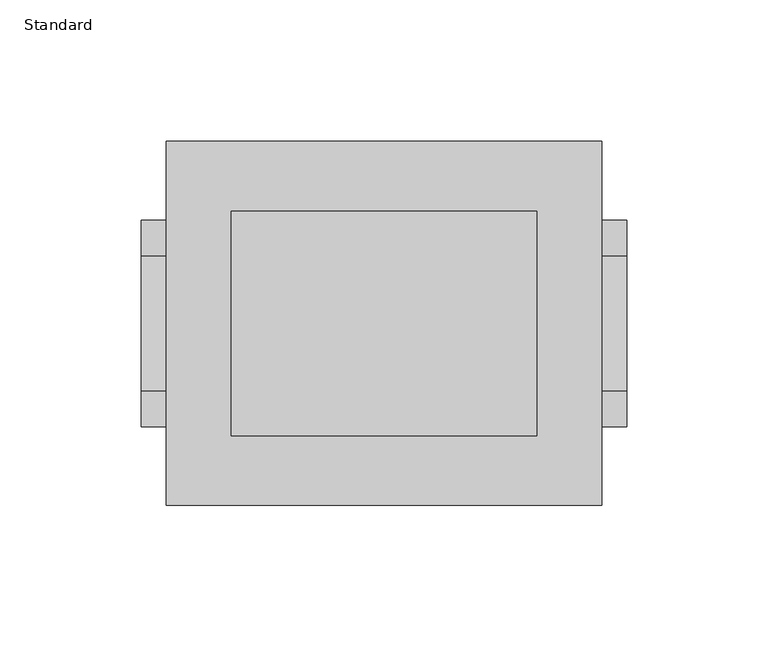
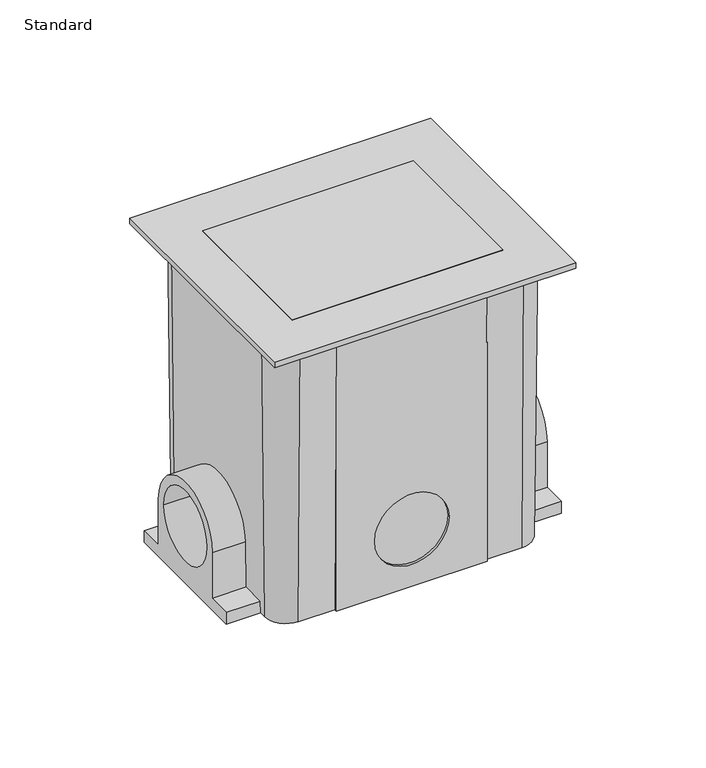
"""IFC4 building model written with IfcOpenShell, lengths in millimetres: proxy geometry, Floor_Box-Modulink-Wiremold-880_Nonmetallic-1_Gang : Standard."""

from ifc_helpers import new_model, si_unit, frame, origin, place, context, project, spatial, polyline, circle_curve, ellipse_curve, outline, extrude, source, transform, mapped, element, save
from ifc_brep_helpers import plane_surface, cylinder_surface, revolved_surface, advanced_brep


def standard_1601c0b5(model_context):
    return source(origin(), model_context, "Body", "SolidModel", [
        extrude(outline(polyline([(53.975, 39.6875), (53.975, -39.6875), (-53.975, -39.6875), (-53.975, 39.6875), (53.975, 39.6875)])), frame((0.0, 0.0, -12.7), z_axis=(0.0, 0.0, 1.0), x_axis=(1.0, 0.0, 0.0)), (0.0, 0.0, 1.0), 12.7),
        extrude(outline(polyline([(-77.0001, 64.3001), (77.0001, 64.3001), (77.0001, -64.3001), (-77.0001, -64.3001), (-77.0001, 64.3001)]), holes=[polyline([(-53.975, 39.6875), (-53.975, -39.6875), (53.975, -39.6875), (53.975, 39.6875), (-53.975, 39.6875)])]), frame((0.0, 0.0, -3.175), z_axis=(0.0, 0.0, 1.0), x_axis=(1.0, 0.0, 0.0)), (0.0, 0.0, 1.0), 3.175),
        advanced_brep(
        [(-57.15, 52.3875, -3.175), (-69.85, 39.6875, -3.175), (-69.85, -39.6875, -3.175), (-57.15, -52.3875, -3.175), (-38.608, -52.3875, -3.175), (38.608, -52.3875, -3.175), (57.15, -52.3875, -3.175), (69.85, -39.6875, -3.175), (69.85, 39.6875, -3.175), (57.15, 52.3875, -3.175), (38.608, 52.3875, -3.175), (-38.608, 52.3875, -3.175), (57.15, 50.8, -155.575), (68.2625, 39.6875, -155.575), (68.2625, 36.5125, -155.575), (85.725, 36.5125, -155.575), (85.725, -36.5125, -155.575), (68.2625, -36.5125, -155.575), (68.2625, -39.6875, -155.575), (57.15, -50.8, -155.575), (38.608, -50.8, -155.575), (38.608, -52.3875, -155.575), (-38.608, -52.3875, -155.575), (-38.608, -50.8, -155.575), (-57.15, -50.8, -155.575), (-68.2625, -39.6875, -155.575), (-68.2625, -36.5125, -155.575), (-85.725, -36.5125, -155.575), (-85.725, 36.5125, -155.575), (-68.2625, 36.5125, -155.575), (-68.2625, 39.6875, -155.575), (-57.15, 50.8, -155.575), (-38.608, 50.8, -155.575), (-38.608, 52.3875, -155.575), (38.608, 52.3875, -155.575), (38.608, 50.8, -155.575), (19.05, 51.1225271, -124.6124), (-19.05, 51.1225271, -124.6124), (-68.3286458, 36.5125, -149.225), (-68.3286458, 23.8125, -149.225), (-68.5850271, 23.8125, -124.6124), (-68.5850271, -23.8125, -124.6124), (-68.3286458, -23.8125, -149.225), (-68.3286458, -36.5125, -149.225), (-68.5850271, -19.05, -124.6124), (-68.5850271, 19.05, -124.6124), (-19.05, -51.1225271, -124.6124), (19.05, -51.1225271, -124.6124), (68.3286458, -36.5125, -149.225), (68.3286458, -23.8125, -149.225), (68.5850271, -23.8125, -124.6124), (68.5850271, 23.8125, -124.6124), (68.3286458, 23.8125, -149.225), (68.3286458, 36.5125, -149.225), (68.5850271, 19.05, -124.6124), (68.5850271, -19.05, -124.6124), (-85.725, -23.8125, -124.6124), (-85.725, 23.8125, -124.6124), (-85.725, 23.8125, -149.225), (-85.725, 36.5125, -149.225), (-85.725, -36.5125, -149.225), (-85.725, -23.8125, -149.225), (-85.725, -19.05, -124.6124), (-85.725, 19.05, -124.6124), (85.725, -23.8125, -124.6124), (85.725, -23.8125, -149.225), (85.725, -36.5125, -149.225), (85.725, 36.5125, -149.225), (85.725, 23.8125, -149.225), (85.725, 23.8125, -124.6124), (85.725, -19.05, -124.6124), (85.725, 19.05, -124.6124), (-19.05, -52.3875, -124.6124), (19.05, -52.3875, -124.6124), (-19.05, 52.3875, -124.6124), (19.05, 52.3875, -124.6124)],
        [
            (0, 1, circle_curve(frame((-57.15, 39.6875, -3.175), z_axis=(0.0, 0.0, 1.0), x_axis=(0.0, 1.0, 0.0)), 12.7)),
            (1, 2),
            (2, 3, circle_curve(frame((-57.15, -39.6875, -3.175), z_axis=(0.0, 0.0, 1.0), x_axis=(-1.0, 0.0, 0.0)), 12.7)),
            (3, 4),
            (4, 5),
            (5, 6),
            (6, 7, circle_curve(frame((57.15, -39.6875, -3.175), z_axis=(0.0, 0.0, 1.0), x_axis=(0.0, -1.0, 0.0)), 12.7)),
            (7, 8),
            (8, 9, circle_curve(frame((57.15, 39.6875, -3.175), z_axis=(0.0, 0.0, 1.0), x_axis=(1.0, 0.0, 0.0)), 12.7)),
            (9, 10),
            (10, 11),
            (11, 0),
            (12, 13, circle_curve(frame((57.15, 39.6875, -155.575), z_axis=(0.0, 0.0, -1.0), x_axis=(1.0, 0.0, 0.0)), 11.1125)),
            (13, 14),
            (14, 15),
            (15, 16),
            (16, 17),
            (17, 18),
            (18, 19, circle_curve(frame((57.15, -39.6875, -155.575), z_axis=(0.0, 0.0, -1.0), x_axis=(0.0, -1.0, 0.0)), 11.1125)),
            (19, 20),
            (20, 21),
            (21, 22),
            (22, 23),
            (23, 24),
            (24, 25, circle_curve(frame((-57.15, -39.6875, -155.575), z_axis=(0.0, 0.0, -1.0), x_axis=(-1.0, 0.0, 0.0)), 11.1125)),
            (25, 26),
            (26, 27),
            (27, 28),
            (28, 29),
            (29, 30),
            (30, 31, circle_curve(frame((-57.15, 39.6875, -155.575), z_axis=(0.0, 0.0, -1.0), x_axis=(0.0, 1.0, 0.0)), 11.1125)),
            (31, 32),
            (32, 33),
            (33, 34),
            (34, 35),
            (35, 12),
            (31, 0),
            (11, 32),
            (9, 12),
            (35, 10),
            (36, 37, ellipse_curve(frame((0.0, 51.1225271, -124.6124), z_axis=(0.0, 0.9999457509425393, -0.010416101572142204), x_axis=(0.0, 0.010416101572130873, 0.9999457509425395)), 19.0510335, 19.05)),
            (37, 36, ellipse_curve(frame((0.0, 51.1225271, -124.6124), z_axis=(0.0, 0.9999457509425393, -0.010416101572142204), x_axis=(0.0, 0.010416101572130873, 0.9999457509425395)), 19.0510335, 19.05)),
            (1, 30),
            (29, 38),
            (38, 39),
            (39, 40),
            (40, 41, ellipse_curve(frame((-68.5850271, 0.0, -124.6124), z_axis=(0.9999457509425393, 0.0, 0.010416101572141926), x_axis=(0.010416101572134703, 0.0, -0.9999457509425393)), 23.8137919, 23.8125)),
            (41, 42),
            (42, 43),
            (43, 26),
            (25, 2),
            (44, 45, ellipse_curve(frame((-68.5850271, 0.0, -124.6124), z_axis=(-0.9999457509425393, 0.0, -0.010416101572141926), x_axis=(-0.010416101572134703, 0.0, 0.9999457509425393)), 19.0510335, 19.05)),
            (45, 44, ellipse_curve(frame((-68.5850271, 0.0, -124.6124), z_axis=(-0.9999457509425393, 0.0, -0.010416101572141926), x_axis=(-0.010416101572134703, 0.0, 0.9999457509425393)), 19.0510335, 19.05)),
            (19, 6),
            (5, 20),
            (46, 47, ellipse_curve(frame((0.0, -51.1225271, -124.6124), z_axis=(0.0, -0.9999457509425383, -0.010416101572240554), x_axis=(0.0, 0.010416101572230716, -0.9999457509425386)), 19.0510335, 19.05)),
            (47, 46, ellipse_curve(frame((0.0, -51.1225271, -124.6124), z_axis=(0.0, -0.9999457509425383, -0.010416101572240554), x_axis=(0.0, 0.010416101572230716, -0.9999457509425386)), 19.0510335, 19.05)),
            (3, 24),
            (23, 4),
            (7, 18),
            (17, 48),
            (48, 49),
            (49, 50),
            (50, 51, ellipse_curve(frame((68.5850271, 0.0, -124.6124), z_axis=(-0.9999457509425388, 0.0, 0.010416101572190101), x_axis=(0.010416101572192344, 0.0, 0.9999457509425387)), 23.8137919, 23.8125)),
            (51, 52),
            (52, 53),
            (53, 14),
            (13, 8),
            (54, 55, ellipse_curve(frame((68.5850271, 0.0, -124.6124), z_axis=(0.9999457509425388, 0.0, -0.010416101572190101), x_axis=(-0.010416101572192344, 0.0, -0.9999457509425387)), 19.0510335, 19.05)),
            (55, 54, ellipse_curve(frame((68.5850271, 0.0, -124.6124), z_axis=(0.9999457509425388, 0.0, -0.010416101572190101), x_axis=(-0.010416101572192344, 0.0, -0.9999457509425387)), 19.0510335, 19.05)),
            (56, 57, circle_curve(frame((-85.725, 0.0, -124.6124), z_axis=(-1.0, 0.0, 0.0), x_axis=(0.0, 1.0, 0.0)), 23.8125)),
            (57, 58),
            (58, 59),
            (59, 28),
            (27, 60),
            (60, 61),
            (61, 56),
            (62, 63, circle_curve(frame((-85.725, 0.0, -124.6124), z_axis=(1.0, 0.0, 0.0), x_axis=(0.0, 1.0, 0.0)), 19.05)),
            (63, 62, circle_curve(frame((-85.725, 0.0, -124.6124), z_axis=(1.0, 0.0, 0.0), x_axis=(0.0, 1.0, 0.0)), 19.05)),
            (61, 42),
            (41, 56),
            (60, 43),
            (59, 38),
            (58, 39),
            (57, 40),
            (63, 45),
            (44, 62),
            (64, 65),
            (65, 66),
            (66, 16),
            (15, 67),
            (67, 68),
            (68, 69),
            (69, 64, circle_curve(frame((85.725, 0.0, -124.6124), z_axis=(1.0, 0.0, 0.0), x_axis=(0.0, 1.0, 0.0)), 23.8125)),
            (70, 71, circle_curve(frame((85.725, 0.0, -124.6124), z_axis=(-1.0, 0.0, 0.0), x_axis=(0.0, 1.0, 0.0)), 19.05)),
            (71, 70, circle_curve(frame((85.725, 0.0, -124.6124), z_axis=(-1.0, 0.0, 0.0), x_axis=(0.0, 1.0, 0.0)), 19.05)),
            (64, 50),
            (49, 65),
            (48, 66),
            (53, 67),
            (52, 68),
            (51, 69),
            (70, 55),
            (54, 71),
            (4, 22),
            (21, 5),
            (72, 73, circle_curve(frame((0.0, -52.3875, -124.6124), z_axis=(0.0, 1.0, 0.0), x_axis=(1.0, 0.0, 0.0)), 19.05)),
            (73, 72, circle_curve(frame((0.0, -52.3875, -124.6124), z_axis=(0.0, 1.0, 0.0), x_axis=(1.0, 0.0, 0.0)), 19.05)),
            (73, 47),
            (46, 72),
            (10, 34),
            (33, 11),
            (74, 75, circle_curve(frame((0.0, 52.3875, -124.6124), z_axis=(0.0, -1.0, 0.0), x_axis=(1.0, 0.0, 0.0)), 19.05)),
            (75, 74, circle_curve(frame((0.0, 52.3875, -124.6124), z_axis=(0.0, -1.0, 0.0), x_axis=(1.0, 0.0, 0.0)), 19.05)),
            (74, 37),
            (36, 75),
        ],
        [
            plane_surface(frame((0.0, 0.0, -3.175), z_axis=(0.0, 0.0, 1.0), x_axis=(-1.0, 0.0, 0.0))),
            plane_surface(frame((0.0, 0.0, -155.575), z_axis=(0.0, 0.0, -1.0), x_axis=(-1.0, 0.0, 0.0))),
            plane_surface(frame((0.0, 50.8, -155.575), z_axis=(0.0, 0.9999457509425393, -0.010416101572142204), x_axis=(-1.0, 0.0, 0.0))),
            plane_surface(frame((-68.2625, 0.0, -155.575), z_axis=(-0.9999457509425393, 0.0, -0.010416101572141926), x_axis=(0.0, -1.0, 0.0))),
            plane_surface(frame((0.0, -50.8, -155.575), z_axis=(0.0, -0.9999457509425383, -0.010416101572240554), x_axis=(1.0, 0.0, 0.0))),
            plane_surface(frame((68.2625, 0.0, -155.575), z_axis=(0.9999457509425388, 0.0, -0.010416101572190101), x_axis=(0.0, 1.0, 0.0))),
            revolved_surface(polyline([(-68.26249999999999, 39.6875, -155.57500000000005), (-69.85, 39.6875, -3.1749999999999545)]), (-57.15, 39.6875, -1222.375), (0.0, 0.0, 1.0)),
            revolved_surface(polyline([(-57.15, -50.8, -155.57500000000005), (-57.15, -52.3875, -3.1749999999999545)]), (-57.15, -39.6875, -1222.375), (0.0, 0.0, 1.0)),
            revolved_surface(polyline([(68.26249999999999, -39.6875, -155.57500000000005), (69.85, -39.6875, -3.1749999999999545)]), (57.15, -39.6875, -1222.375), (0.0, 0.0, 1.0)),
            revolved_surface(polyline([(57.15, 50.8, -155.57500000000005), (57.15, 52.3875, -3.1749999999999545)]), (57.15, 39.6875, -1222.375), (0.0, 0.0, 1.0)),
            plane_surface(frame((-85.725, -23.8125, -149.225), z_axis=(-1.0, 0.0, 0.0), x_axis=(0.0, -1.0394162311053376e-12, 1.0))),
            plane_surface(frame((-57.15, -23.8125, -124.6124), z_axis=(0.0, -1.0, -1.0394162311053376e-12), x_axis=(-1.0, 0.0, 0.0))),
            plane_surface(frame((-57.15, -23.8125, -149.225), z_axis=(0.0, 0.0, 1.0), x_axis=(-1.0, 0.0, 0.0))),
            plane_surface(frame((-57.15, -36.5125, -149.225), z_axis=(0.0, -1.0, 0.0), x_axis=(-1.0, 0.0, 0.0))),
            plane_surface(frame((-57.15, 36.5125, -155.575), z_axis=(0.0, 1.0, 0.0), x_axis=(-1.0, 0.0, 0.0))),
            plane_surface(frame((-57.15, 36.5125, -149.225), z_axis=(0.0, 0.0, 1.0), x_axis=(-1.0, 0.0, 0.0))),
            plane_surface(frame((-57.15, 23.8125, -149.225), z_axis=(0.0, 1.0, 0.0), x_axis=(-1.0, 0.0, 0.0))),
            cylinder_surface(frame((-85.725, 0.0, -124.6124), z_axis=(1.0, 0.0, 0.0), x_axis=(0.0, 1.0, 0.0)), 23.8125),
            revolved_surface(polyline([(-85.725, 19.05, -124.6124), (-68.38658960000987, 19.05, -124.6124)]), (0.0, 0.0, -124.6124), (-1.0, 0.0, 0.0)),
            plane_surface(frame((85.725, -23.8125, -149.225), z_axis=(1.0, 0.0, 0.0), x_axis=(0.0, 1.0394162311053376e-12, -1.0))),
            plane_surface(frame((85.725, -23.8125, -124.6124), z_axis=(0.0, -1.0, -1.0394162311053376e-12), x_axis=(-1.0, 0.0, 0.0))),
            plane_surface(frame((85.725, -23.8125, -149.225), z_axis=(0.0, 0.0, 1.0), x_axis=(-1.0, 0.0, 0.0))),
            plane_surface(frame((85.725, -36.5125, -149.225), z_axis=(0.0, -1.0, 0.0), x_axis=(-1.0, 0.0, 0.0))),
            plane_surface(frame((85.725, 36.5125, -155.575), z_axis=(0.0, 1.0, 0.0), x_axis=(-1.0, 0.0, 0.0))),
            plane_surface(frame((85.725, 36.5125, -149.225), z_axis=(0.0, 0.0, 1.0), x_axis=(-1.0, 0.0, 0.0))),
            plane_surface(frame((85.725, 23.8125, -149.225), z_axis=(0.0, 1.0, 0.0), x_axis=(-1.0, 0.0, 0.0))),
            cylinder_surface(frame((57.15, 0.0, -124.6124), z_axis=(1.0, 0.0, 0.0), x_axis=(0.0, 1.0, 0.0)), 23.8125),
            revolved_surface(polyline([(68.38658960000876, 19.05, -124.6124), (85.725, 19.05, -124.6124)]), (0.0, 0.0, -124.6124), (-1.0, 0.0, 0.0)),
            plane_surface(frame((19.05, -52.3875, -124.6124), z_axis=(0.0, -1.0, 0.0), x_axis=(0.0, 0.0, -1.0))),
            revolved_surface(polyline([(19.05, -50.92408960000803, -124.6124), (19.05, -52.3875, -124.6124)]), (0.0, -50.8, -124.6124), (0.0, 1.0, 0.0)),
            plane_surface(frame((-38.608, -52.3875, -3.175), z_axis=(-1.0, 0.0, 0.0), x_axis=(0.0, 1.0, 0.0))),
            plane_surface(frame((38.608, -52.3875, -155.575), z_axis=(1.0, 0.0, 0.0), x_axis=(0.0, 1.0, 0.0))),
            plane_surface(frame((19.05, 52.3875, -124.6124), z_axis=(0.0, 1.0, 0.0), x_axis=(0.0, 0.0, 1.0))),
            revolved_surface(polyline([(19.05, 52.3875, -124.6124), (19.05, 50.92408960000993, -124.6124)]), (0.0, 52.3875, -124.6124), (0.0, 1.0, 0.0)),
            plane_surface(frame((-38.608, 50.8, -3.175), z_axis=(-1.0, 0.0, 0.0), x_axis=(0.0, 1.0, 0.0))),
            plane_surface(frame((38.608, 50.8, -155.575), z_axis=(1.0, 0.0, 0.0), x_axis=(0.0, 1.0, 0.0))),
        ],
        [
            (0, [[1, 2, 3, 4, 5, 6, 7, 8, 9, 10, 11, 12]]),
            (1, [[13, 14, 15, 16, 17, 18, 19, 20, 21, 22, 23, 24, 25, 26, 27, 28, 29, 30, 31, 32, 33, 34, 35, 36]]),
            (2, [[37, -12, 38, -32]]),
            (2, [[39, -36, 40, -10]]),
            (2, [[41, 42]]),
            (3, [[-2, 43, -30, 44, 45, 46, 47, 48, 49, 50, -26, 51]]),
            (3, [[52, 53]]),
            (4, [[54, -6, 55, -20]]),
            (4, [[56, 57]]),
            (4, [[58, -24, 59, -4]]),
            (5, [[-8, 60, -18, 61, 62, 63, 64, 65, 66, 67, -14, 68]]),
            (5, [[69, 70]]),
            (6, [[-1, -37, -31, -43]]),
            (7, [[-3, -51, -25, -58]]),
            (8, [[-7, -54, -19, -60]]),
            (9, [[-9, -68, -13, -39]]),
            (10, [[71, 72, 73, 74, -28, 75, 76, 77], [78, 79]]),
            (11, [[-77, 80, -48, 81]]),
            (12, [[-76, 82, -49, -80]]),
            (13, [[-75, -27, -50, -82]]),
            (14, [[-74, 83, -44, -29]]),
            (15, [[-73, 84, -45, -83]]),
            (16, [[-72, 85, -46, -84]]),
            (17, [[-71, -81, -47, -85]]),
            (18, [[-79, 86, -52, 87]]),
            (18, [[-78, -87, -53, -86]]),
            (19, [[88, 89, 90, -16, 91, 92, 93, 94], [95, 96]]),
            (20, [[-88, 97, -63, 98]]),
            (21, [[-89, -98, -62, 99]]),
            (22, [[-90, -99, -61, -17]]),
            (23, [[-91, -15, -67, 100]]),
            (24, [[-92, -100, -66, 101]]),
            (25, [[-93, -101, -65, 102]]),
            (26, [[-94, -102, -64, -97]]),
            (27, [[-95, 103, -69, 104]]),
            (27, [[-96, -104, -70, -103]]),
            (28, [[105, -22, 106, -5], [107, 108]]),
            (29, [[-108, 109, -56, 110]]),
            (29, [[-107, -110, -57, -109]]),
            (30, [[-105, -59, -23]]),
            (31, [[-106, -21, -55]]),
            (32, [[111, -34, 112, -11], [113, 114]]),
            (33, [[-113, 115, -41, 116]]),
            (33, [[-114, -116, -42, -115]]),
            (34, [[-112, -33, -38]]),
            (35, [[-111, -40, -35]]),
        ],
    ),
    ])


if __name__ == "__main__":
    model = new_model("IFC4")
    model_context = context("Model", 3, world=origin())
    ifc_project = project(units=[si_unit("LENGTHUNIT", "METRE", prefix="MILLI")], contexts=[model_context])
    site = spatial("IfcSite", under=ifc_project)
    building = spatial("IfcBuilding", under=site)
    placement = place(None, origin())
    standard_shape = standard_1601c0b5(model_context)
    element("IfcBuildingElementProxy", 1, Name="Floor_Box-Modulink-Wiremold-880_Nonmetallic-1_Gang : Standard", ObjectType="Floor_Box-Modulink-Wiremold-880_Nonmetallic-1_Gang : Standard", at=placement, inside=building, context=model_context, shape_type="MappedRepresentation", body=[
        mapped(standard_shape, transform((0.0, 0.0, 0.0), x_axis=(1.0, 0.0, 0.0), y_axis=(0.0, 1.0, 0.0), z_axis=(0.0, 0.0, 1.0))),
    ])
    save(model, "model.ifc")
